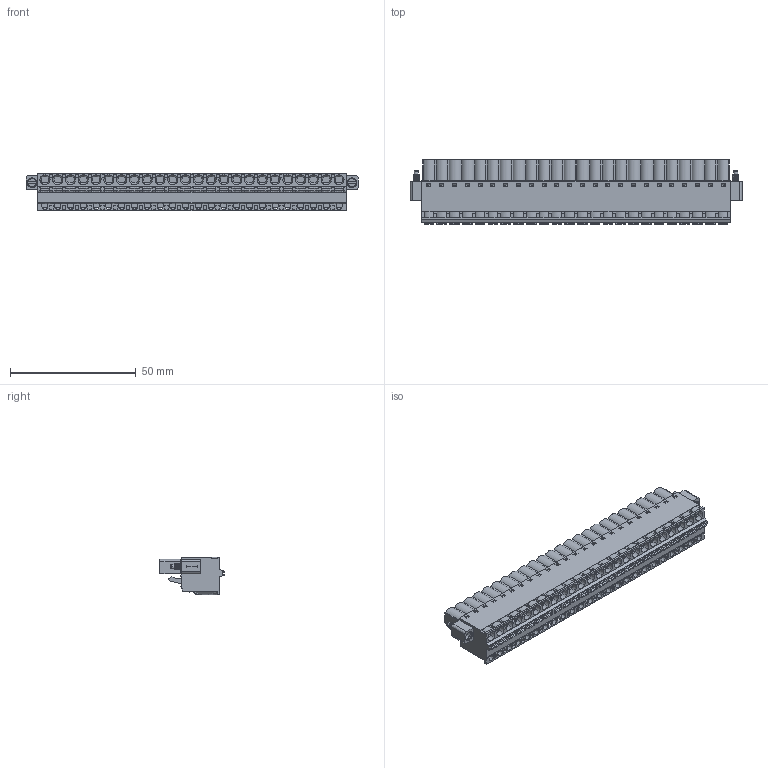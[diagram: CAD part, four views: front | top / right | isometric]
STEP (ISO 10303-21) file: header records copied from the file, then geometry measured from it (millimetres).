
FILE_DESCRIPTION(('Open CASCADE Model'),'2;1');
FILE_NAME('Open CASCADE Shape Model','2023-04-04T12:49:13',('Author'),( 'Open CASCADE'),'Open CASCADE STEP processor 6.5','Open CASCADE 6.5' ,'Unknown');
FILE_SCHEMA(('AUTOMOTIVE_DESIGN { 1 0 10303 214 1 1 1 1 }'));
Length unit declared in the file: millimetre
Products named in the file (2452): CADSOFTTOOLS 1; CADSOFTTOOLS 1.1; CADSOFTTOOLS 1.2; CADSOFTTOOLS 1.3; CADSOFTTOOLS 1.4; CADSOFTTOOLS 1.5; CADSOFTTOOLS 1.6; CADSOFTTOOLS 1.7; CADSOFTTOOLS 1.8; CADSOFTTOOLS 1.9; CADSOFTTOOLS 1.10; CADSOFTTOOLS 1.11; CADSOFTTOOLS 1.12; CADSOFTTOOLS 1.13; CADSOFTTOOLS 1.14; CADSOFTTOOLS 1.15; CADSOFTTOOLS 1.16; CADSOFTTOOLS 1.17; CADSOFTTOOLS 1.18; CADSOFTTOOLS 1.19; CADSOFTTOOLS 1.20; CADSOFTTOOLS 1.21; CADSOFTTOOLS 1.22; CADSOFTTOOLS 1.23; CADSOFTTOOLS 1.24; CADSOFTTOOLS 1.25; CADSOFTTOOLS 1.26; CADSOFTTOOLS 1.27; CADSOFTTOOLS 1.28; CADSOFTTOOLS 1.29; CADSOFTTOOLS 1.30; CADSOFTTOOLS 1.31; CADSOFTTOOLS 1.32; CADSOFTTOOLS 1.33; CADSOFTTOOLS 1.34; CADSOFTTOOLS 1.35; CADSOFTTOOLS 1.36; CADSOFTTOOLS 1.37; CADSOFTTOOLS 1.38; CADSOFTTOOLS 1.39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
Assembly tree (2451 placements, depth 2):
  CADSOFTTOOLS 1
    CADSOFTTOOLS 1.1
    CADSOFTTOOLS 1.2
    CADSOFTTOOLS 1.3
    CADSOFTTOOLS 1.4
    CADSOFTTOOLS 1.5
    CADSOFTTOOLS 1.6
    CADSOFTTOOLS 1.7
    CADSOFTTOOLS 1.8
    CADSOFTTOOLS 1.9
    CADSOFTTOOLS 1.10
    CADSOFTTOOLS 1.11
    CADSOFTTOOLS 1.12
    CADSOFTTOOLS 1.13
    CADSOFTTOOLS 1.14
    CADSOFTTOOLS 1.15
    CADSOFTTOOLS 1.16
    CADSOFTTOOLS 1.17
    CADSOFTTOOLS 1.18
    CADSOFTTOOLS 1.19
    CADSOFTTOOLS 1.20
    CADSOFTTOOLS 1.21
    CADSOFTTOOLS 1.22
    CADSOFTTOOLS 1.23
    CADSOFTTOOLS 1.24
    CADSOFTTOOLS 1.25
    CADSOFTTOOLS 1.26
    CADSOFTTOOLS 1.27
    CADSOFTTOOLS 1.28
    CADSOFTTOOLS 1.29
    CADSOFTTOOLS 1.30
    CADSOFTTOOLS 1.31
    CADSOFTTOOLS 1.32
    CADSOFTTOOLS 1.33
    CADSOFTTOOLS 1.34
    CADSOFTTOOLS 1.35
    CADSOFTTOOLS 1.36
    CADSOFTTOOLS 1.37
    CADSOFTTOOLS 1.38
    CADSOFTTOOLS 1.39
    CADSOFTTOOLS 1.40
    CADSOFTTOOLS 1.41
    CADSOFTTOOLS 1.42
    CADSOFTTOOLS 1.43
    CADSOFTTOOLS 1.44
    CADSOFTTOOLS 1.45
    CADSOFTTOOLS 1.46
    CADSOFTTOOLS 1.47
    CADSOFTTOOLS 1.48
    CADSOFTTOOLS 1.49
    CADSOFTTOOLS 1.50
    CADSOFTTOOLS 1.51
    CADSOFTTOOLS 1.52
    CADSOFTTOOLS 1.53
    CADSOFTTOOLS 1.54
    CADSOFTTOOLS 1.55
    CADSOFTTOOLS 1.56
    CADSOFTTOOLS 1.57
    CADSOFTTOOLS 1.58
    CADSOFTTOOLS 1.59
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Bounding box: 131.92 x 25.6 x 15 mm (x, y, z)
Surface area: 15683.6 mm2 (no closed solid volume)
Topology: 0 solids, 2451 shells, 2451 faces, 13394 edges, 13282 vertices
Faces by surface type: bspline 2451
Entity records: 406396 total; most frequent: CARTESIAN_POINT 246693, B_SPLINE_CURVE_WITH_KNOTS 23708, ORIENTED_EDGE 13282, EDGE_CURVE 13282, VERTEX_POINT 13282, SURFACE_CURVE 13282, PCURVE 13282, DEFINITIONAL_REPRESENTATION 13282
